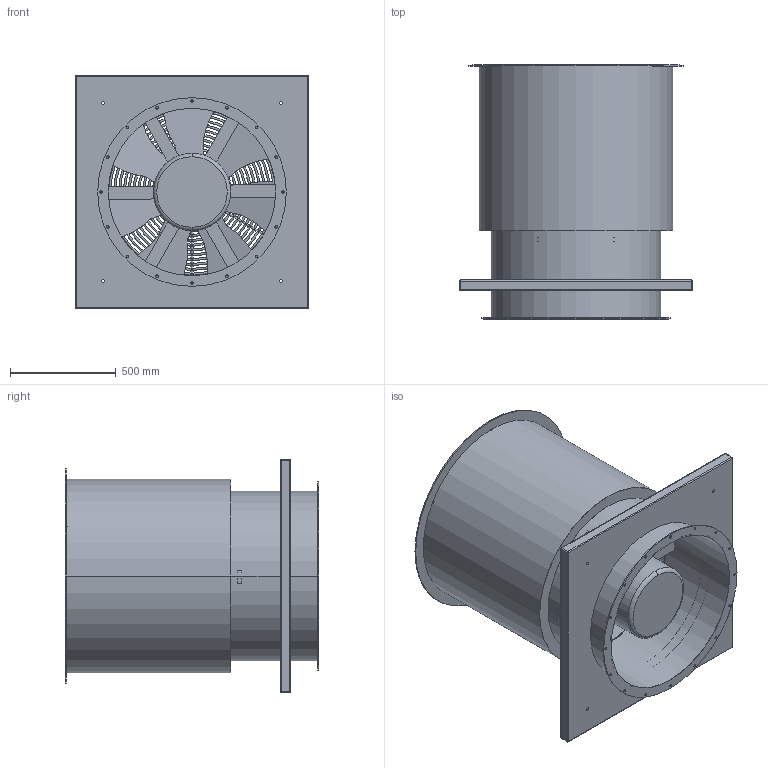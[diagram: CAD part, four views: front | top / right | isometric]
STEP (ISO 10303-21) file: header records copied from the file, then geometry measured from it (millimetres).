
FILE_DESCRIPTION(('STEP AP214'),'1');
FILE_NAME('hght-v-800.stp','2017-09-12T16:25:10',('TraceParts'),('TraceParts S.A.'),'Spatial InterOp 3D',' ',' ');
FILE_SCHEMA(('automotive_design'));
Length unit declared in the file: millimetre
Products named in the file (1): hght-v-800
Bounding box: 1100 x 1198 x 1100 mm (x, y, z)
Volume: 101309043.8 mm3; surface area: 11595661 mm2
Topology: 1 solids, 1 shells, 499 faces, 1591 edges, 866 vertices
Faces by surface type: torus 308, cylinder 114, plane 69, sphere 8
Entity records: 46209 total; most frequent: CARTESIAN_POINT 28461, ORIENTED_EDGE 3166, DIRECTION 2787, EDGE_CURVE 1583, AXIS2_PLACEMENT_3D 1172, VERTEX_POINT 866, CIRCLE 628, EDGE_LOOP 569
